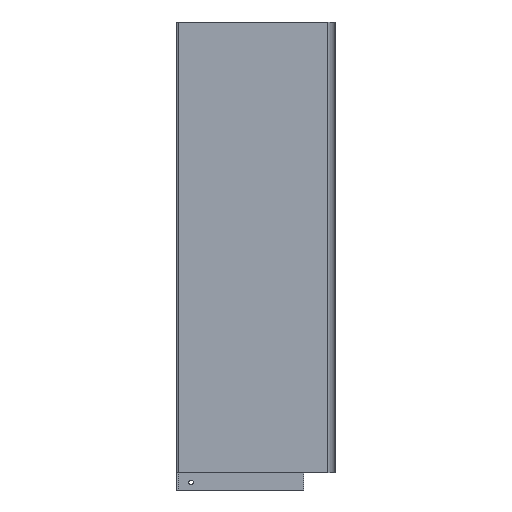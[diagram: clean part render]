
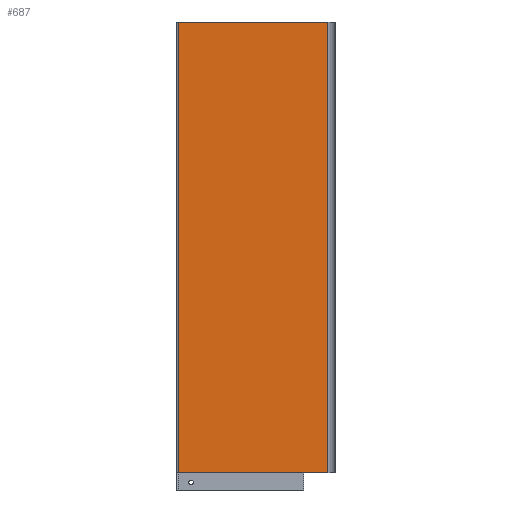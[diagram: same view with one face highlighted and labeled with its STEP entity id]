
A CAD part, left-side view. The second image highlights one B-rep face of the part: STEP entity #687.
In plain terms, the highlighted planar face has unit normal (-1, 0, 0).
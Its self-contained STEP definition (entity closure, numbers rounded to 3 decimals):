
#11 = EDGE_CURVE ( 'NONE', #869, #838, #753, .T. ) ;
#50 = LINE ( 'NONE', #821, #111 ) ;
#90 = VERTEX_POINT ( 'NONE', #804 ) ;
#111 = VECTOR ( 'NONE', #884, 1000. ) ;
#138 = ORIENTED_EDGE ( 'NONE', *, *, #807, .T. ) ;
#151 = EDGE_CURVE ( 'NONE', #869, #90, #352, .T. ) ;
#162 = EDGE_LOOP ( 'NONE', ( #598, #138, #533, #731 ) ) ;
#176 = CARTESIAN_POINT ( 'NONE',  ( -8., 14.6, -649.266 ) ) ;
#178 = VECTOR ( 'NONE', #185, 1000. ) ;
#185 = DIRECTION ( 'NONE',  ( 0., 0., 1. ) ) ;
#216 = CARTESIAN_POINT ( 'NONE',  ( -8., -144.438, -479. ) ) ;
#227 = VECTOR ( 'NONE', #276, 1000. ) ;
#250 = VECTOR ( 'NONE', #569, 1000. ) ;
#276 = DIRECTION ( 'NONE',  ( 0., -1., 0. ) ) ;
#304 = EDGE_CURVE ( 'NONE', #568, #90, #50, .T. ) ;
#352 = LINE ( 'NONE', #176, #178 ) ;
#393 = PLANE ( 'NONE',  #800 ) ;
#432 = LINE ( 'NONE', #786, #250 ) ;
#465 = DIRECTION ( 'NONE',  ( 0., 1., 0. ) ) ;
#533 = ORIENTED_EDGE ( 'NONE', *, *, #304, .T. ) ;
#568 = VERTEX_POINT ( 'NONE', #572 ) ;
#569 = DIRECTION ( 'NONE',  ( 0., 0., 1. ) ) ;
#572 = CARTESIAN_POINT ( 'NONE',  ( -8., -144.438, 0. ) ) ;
#575 = FACE_OUTER_BOUND ( 'NONE', #162, .T. ) ;
#598 = ORIENTED_EDGE ( 'NONE', *, *, #11, .T. ) ;
#668 = CARTESIAN_POINT ( 'NONE',  ( -8., -144.438, -649.266 ) ) ;
#685 = CARTESIAN_POINT ( 'NONE',  ( -8., -144.438, -479. ) ) ;
#687 = ADVANCED_FACE ( 'NONE', ( #575 ), #393, .F. ) ;
#731 = ORIENTED_EDGE ( 'NONE', *, *, #151, .F. ) ;
#753 = LINE ( 'NONE', #685, #227 ) ;
#768 = CARTESIAN_POINT ( 'NONE',  ( -8., 14.6, -479. ) ) ;
#786 = CARTESIAN_POINT ( 'NONE',  ( -8., -144.438, -649.266 ) ) ;
#800 = AXIS2_PLACEMENT_3D ( 'NONE', #668, #877, #465 ) ;
#804 = CARTESIAN_POINT ( 'NONE',  ( -8., 14.6, 0. ) ) ;
#807 = EDGE_CURVE ( 'NONE', #838, #568, #432, .T. ) ;
#821 = CARTESIAN_POINT ( 'NONE',  ( -8., -144.438, 0. ) ) ;
#838 = VERTEX_POINT ( 'NONE', #216 ) ;
#869 = VERTEX_POINT ( 'NONE', #768 ) ;
#877 = DIRECTION ( 'NONE',  ( 1., 0., 0. ) ) ;
#884 = DIRECTION ( 'NONE',  ( 0., 1., 0. ) ) ;
